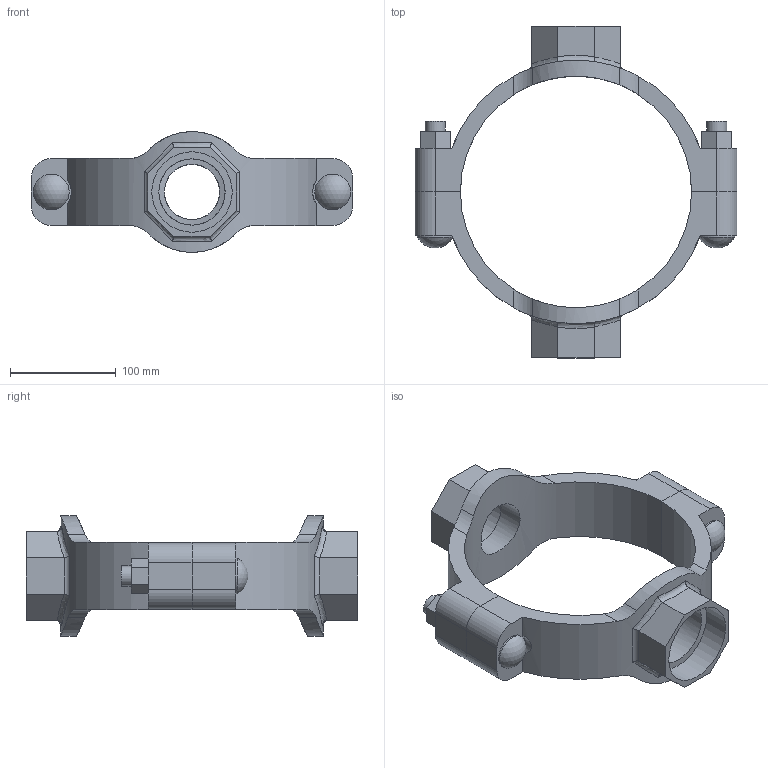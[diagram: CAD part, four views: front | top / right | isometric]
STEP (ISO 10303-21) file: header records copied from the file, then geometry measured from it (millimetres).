
FILE_DESCRIPTION(/* description */ ('VIC MECH-T BRANCH OUTLET CROSS STYLE 920N (THD)','CAx-IF Rec.Pracs.---Representation and Presentation of Product Manufacturing Information (PMI)---4.0---2014-10-13'),/* implementation_level */ '2;1');
FILE_NAME(/* name */ 'C:\Users\Vjadhav\AppData\Roaming\Autodesk\ApplicationPlugins\Back Up\Victaulic_IPS_Mechanical-Cross Outlet_Style 920N (FPT)\Victaulic_IPS_Mechanical-Cross Outlet_08.0x02.0x02.5 (76.1) (200x50x65).stp',/* time_stamp */ '2020-08-06T19:00:48+06:00',/* author */ ('Vjadhav'),/* organization */ ('Victaulic'),/* preprocessor_version */ 'ST-DEVELOPER v17.2',/* originating_system */ 'Autodesk Inventor 2019',/* authorisation */ '');
FILE_SCHEMA (('AP242_MANAGED_MODEL_BASED_3D_ENGINEERING_MIM_LF { 1 0 10303 442 1 1 4 }'));
Length unit declared in the file: inch
Products named in the file (3): 920NT-08.0x02.0x02.5 (76.1); 920T-08.0x02.0; 920T-08.0x02.5 (76.1)
Assembly tree (2 placements, depth 2):
  920NT-08.0x02.0x02.5 (76.1)
    920T-08.0x02.0
    920T-08.0x02.5 (76.1)
Bounding box: 304.8 x 314.45 x 114.3 mm (x, y, z)
Volume: 1197826.4 mm3; surface area: 214134.5 mm2
Topology: 2 solids, 2 shells, 132 faces, 350 edges, 236 vertices
Faces by surface type: plane 68, cylinder 50, bspline 8, torus 4, sphere 2
Full cylindrical faces by diameter (mm): 19.05 x4, 33.843 x2, 52.387 x1, 60.325 x1, 62.738 x1, 76.2 x1
Entity records: 5230 total; most frequent: CARTESIAN_POINT 1717, ORIENTED_EDGE 700, DIRECTION 648, EDGE_CURVE 350, VERTEX_POINT 236, AXIS2_PLACEMENT_3D 231, LINE 186, VECTOR 186
